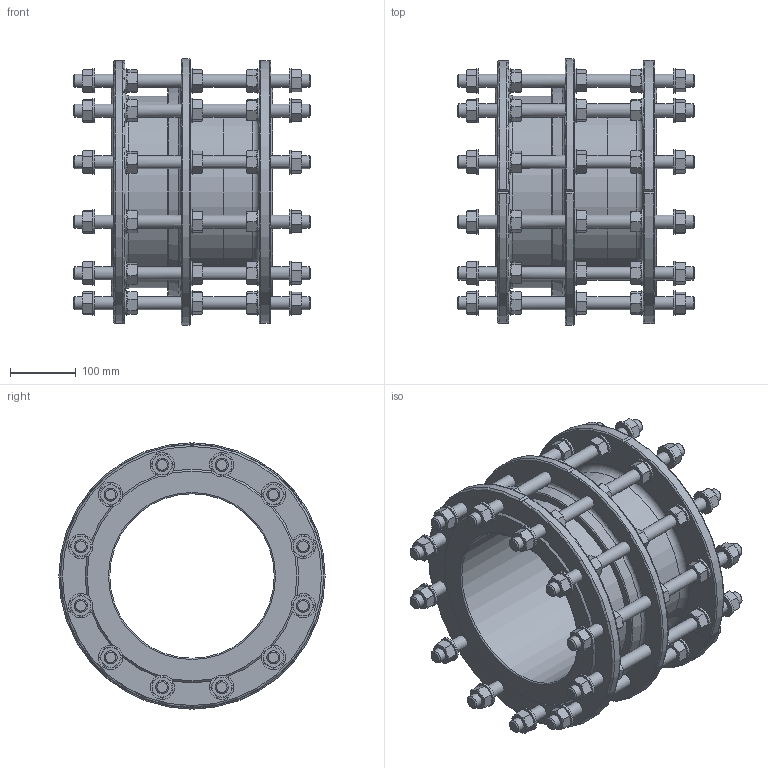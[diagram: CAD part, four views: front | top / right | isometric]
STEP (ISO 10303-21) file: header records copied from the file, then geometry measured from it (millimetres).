
FILE_DESCRIPTION (( 'STEP AP203' ), '1' );
FILE_NAME ('O_265_911_DN250_0XXXXX01_L=245_REV01.step', '2024-12-12T07:51:06', ( '' ), ( '' ), 'SwSTEP 2.0', 'SolidWorks 2022', '' );
FILE_SCHEMA (( 'CONFIG_CONTROL_DESIGN' ));
Length unit declared in the file: millimetre
Products named in the file (1): O_265_911_DN250_0XXXXX01_L=245_REV01
Bounding box: 360 x 405 x 404.96 mm (x, y, z)
Volume: 8161365.3 mm3; surface area: 1128190.4 mm2
Topology: 1 solids, 1 shells, 1497 faces, 3320 edges, 1992 vertices
Faces by surface type: cone 748, plane 588, cylinder 144, torus 17
Full cylindrical faces by diameter (mm): 20 x72, 37 x60, 250 x1, 264 x2, 292 x1
Entity records: 45780 total; most frequent: CARTESIAN_POINT 16189, ORIENTED_EDGE 6086, DIRECTION 5629, EDGE_CURVE 3043, AXIS2_PLACEMENT_3D 2564, VERTEX_POINT 1884, EDGE_LOOP 1883, FACE_OUTER_BOUND 1638
